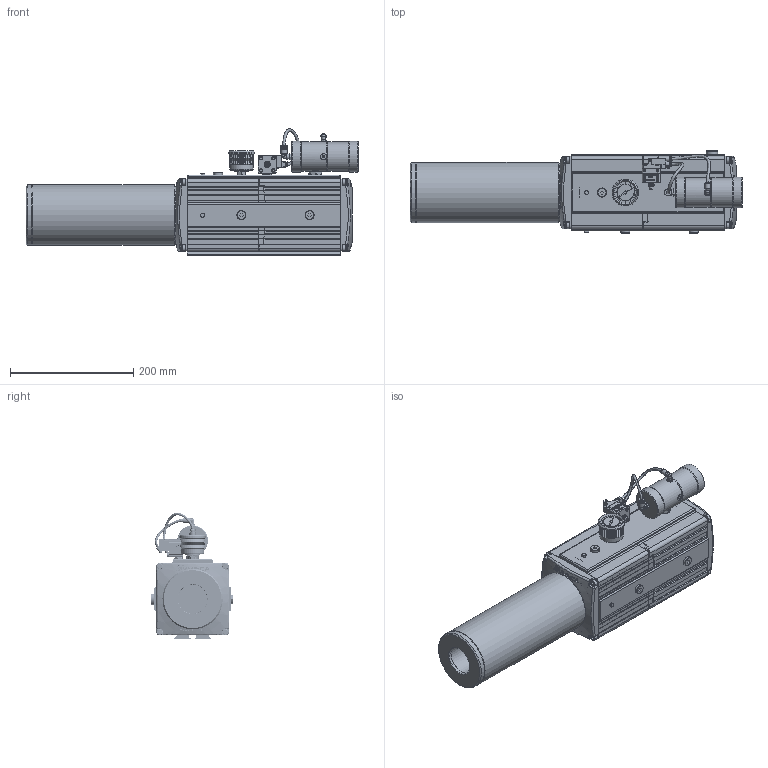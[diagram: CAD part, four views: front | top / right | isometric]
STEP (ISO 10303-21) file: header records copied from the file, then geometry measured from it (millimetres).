
FILE_DESCRIPTION( ( 'Unknown' ), '1' );
FILE_NAME( 'C:/Documents and Settings/Administrator/官帕 拳搁/3D Dimension/MPM303X5-02S-AS.stp', 'Unknown', ( 'Unknown' ), ( 'Unknown' ), 'PSStep 10.0', 'Unknown', ' ' );
FILE_SCHEMA( ( 'AUTOMOTIVE_DESIGN { 1 0 10303 214 1 1 1 1 }' ) );
Length unit declared in the file: millimetre
Products named in the file (28): Assem1; VMS34(DIM); SILENCER_0; VMS34_Cap-34(dim); VMS34_Housing(dim); VMS34_Cap-18(dim); COVER_0; ELEMENT_0; SPONGE_0; END CAP_0; PL-0401; M4; M4_1; M6-Bolt_2; END CAP-212_2; VTP-M5_2; Double Tread PT12M-PT12M; Double Tread 18M-18M; red_2; VTP18_2; VTP14_2; END CAP-112_2; Vacuum Gauge_2; VPS-01_VMS38; M4 ELBOW FITTING_1; Body(re1)(dim); VTP18; VTP-M5
Bounding box: 539.5 x 134 x 205.14 mm (x, y, z)
Volume: 12914143.9 mm3; surface area: 1911690.4 mm2
Topology: 72 solids, 72 shells, 5096 faces, 12783 edges, 8265 vertices
Faces by surface type: plane 3129, cylinder 1117, cone 338, extrusion 192, bspline 120, sphere 100, torus 92, revolution 8
Full cylindrical faces by diameter (mm): 0.274 x2, 0.884 x4, 1.008 x9, 2.2 x4, 2.3 x2, 4 x6, 4.075 x4, 4.134 x12, 4.2 x30, 4.5 x2, 4.552 x4, 5 x4, 5.2 x6, 5.85 x4, 6 x13, 6.064 x2, 6.316 x2, 6.337 x4, 6.5 x16, 6.8 x12, 7 x2, 7.94 x2, 8 x6, 8.566 x3, 8.58 x2, 8.6 x2, 8.8 x10, 9 x2, 9.6 x2, 9.8 x5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
Entity records: 99867 total; most frequent: CARTESIAN_POINT 23896, ORIENTED_EDGE 11340, DIRECTION 11253, EDGE_CURVE 5670, VERTEX_POINT 3840, AXIS2_PLACEMENT_3D 3750, VECTOR 3749, LINE 3653
